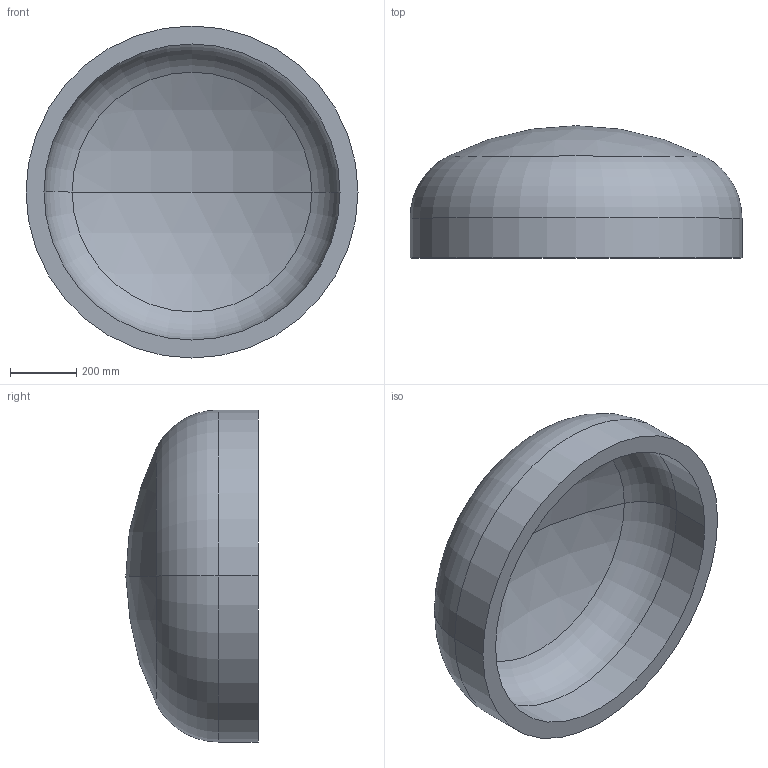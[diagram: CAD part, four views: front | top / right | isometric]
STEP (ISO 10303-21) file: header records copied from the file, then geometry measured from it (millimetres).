
FILE_DESCRIPTION (( 'STEP AP203' ), '1' );
FILE_NAME ('DIN 28013 Korbbogenform_-_Boden DIN 28013 - 1000 x 120 - I - s=54.step', '2016-07-01T08:51:22', ( '' ), ( '' ), 'SwSTEP 2.0', 'SolidWorks 2013', '' );
FILE_SCHEMA (( 'CONFIG_CONTROL_DESIGN' ));
Length unit declared in the file: millimetre
Products named in the file (1): DIN 28013 Korbbogenform_-_Boden DIN 28013 - 1000 x 120 - I - s=54
Bounding box: 1000 x 398.38 x 1000 mm (x, y, z)
Volume: 74145192.7 mm3; surface area: 2912710 mm2
Topology: 1 solids, 1 shells, 13 faces, 24 edges, 14 vertices
Faces by surface type: torus 4, cylinder 4, sphere 4, plane 1
Entity records: 407 total; most frequent: DIRECTION 72, CARTESIAN_POINT 52, ORIENTED_EDGE 48, AXIS2_PLACEMENT_3D 34, EDGE_CURVE 24, CIRCLE 20, EDGE_LOOP 14, VERTEX_POINT 14
